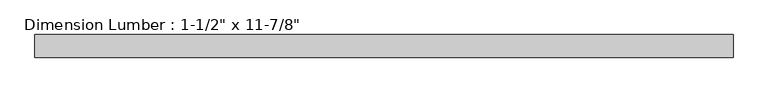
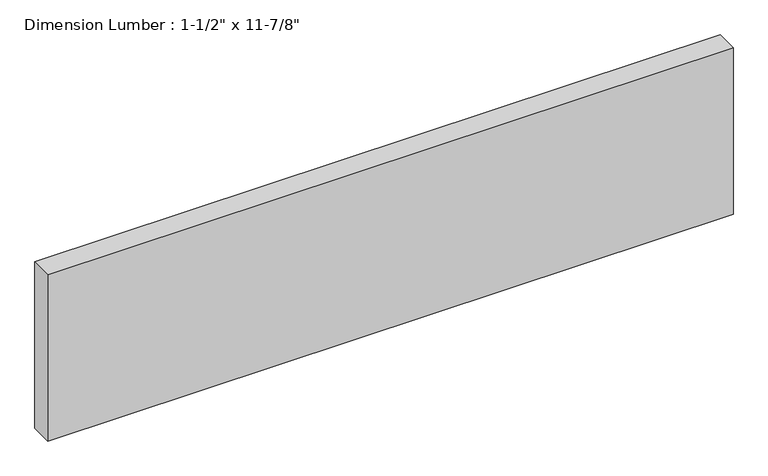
"""IFC4 building model written with IfcOpenShell, lengths in millimetres: beam geometry."""

import ifcopenshell
import ifcopenshell.guid

model = None  # the IFC model being written
_history = None  # IfcOwnerHistory: only IFC2X3 demands one
_inside = {}  # id of a spatial element -> (the spatial element, [elements in it])
_under = {}  # id of a project, library or spatial element -> (it, [spatial elements below it])
_declared = {}  # id of a project -> (the project, [libraries it declares])
_typed = {}  # id of a type object -> (the type object, [elements of that type])
_made_of = {}  # id of a material, layer set ... -> (it, [elements and type objects made of it])


def new_model(schema):
    """Start an empty IFC model of exactly this schema.

    Asked for "IFC4X3", IfcOpenShell would pick the latest addendum, in which some entities
    have other attributes; the version numbers below select the first issue.
    IFC2X3 requires an IfcOwnerHistory on every rooted entity: one is made here for all.
    """
    global model, _history
    if schema == "IFC4X3":
        model = ifcopenshell.file(schema_version=(4, 3, 0, 0))
    else:
        model = ifcopenshell.file(schema=schema)
    _inside.clear()
    _under.clear()
    _declared.clear()
    _typed.clear()
    _made_of.clear()
    _history = None
    if model.schema == "IFC2X3":
        org = make("IfcOrganization", Name="unknown")
        user = make(
            "IfcPersonAndOrganization",
            ThePerson=make("IfcPerson", FamilyName="unknown"),
            TheOrganization=org,
        )
        app = make(
            "IfcApplication",
            ApplicationDeveloper=org,
            Version="unknown",
            ApplicationFullName="unknown",
            ApplicationIdentifier="unknown",
        )
        _history = make(
            "IfcOwnerHistory",
            OwningUser=user,
            OwningApplication=app,
            ChangeAction="ADDED",
            CreationDate=0,
        )
    return model


def make(cls, **values):
    """One entity of the class cls with the attributes given. An attribute that is None is left unset."""
    return model.create_entity(
        cls, **{name: value for name, value in values.items() if value is not None}
    )


def rooted(cls, **values):
    """An entity with a GlobalId (a new one), such as an element, a storey or a relation."""
    return make(cls, GlobalId=ifcopenshell.guid.new(), OwnerHistory=_history, **values)


def si_unit(unit_type, name, prefix=None):
    """IfcSIUnit, for example si_unit("LENGTHUNIT", "METRE", prefix="MILLI")."""
    return make("IfcSIUnit", UnitType=unit_type, Prefix=prefix, Name=name)


def assignment(units):
    """IfcUnitAssignment: the units of a project."""
    return None if units is None else make("IfcUnitAssignment", Units=units)


def point(xyz):
    """IfcCartesianPoint."""
    return None if xyz is None else make("IfcCartesianPoint", Coordinates=xyz)


def direction(xyz):
    """IfcDirection."""
    return None if xyz is None else make("IfcDirection", DirectionRatios=xyz)


def frame(location, z_axis=None, x_axis=None):
    """IfcAxis2Placement3D, a coordinate frame: its origin and axes. An axis left out is left unset."""
    return make(
        "IfcAxis2Placement3D",
        Location=point(location),
        Axis=direction(z_axis),
        RefDirection=direction(x_axis),
    )


def origin():
    """The frame at (0, 0, 0) with its axes left unset."""
    return frame((0.0, 0.0, 0.0))


def place(relative_to, where):
    """IfcLocalPlacement: puts the frame where relative to a parent placement (None: the world)."""
    return make(
        "IfcLocalPlacement", PlacementRelTo=relative_to, RelativePlacement=where
    )


def context(
    kind, dimensions, precision=None, world=None, true_north=None, identifier=None
):
    """IfcGeometricRepresentationContext, for example the 3D "Model" context."""
    return make(
        "IfcGeometricRepresentationContext",
        ContextIdentifier=identifier,
        ContextType=kind,
        CoordinateSpaceDimension=dimensions,
        Precision=precision,
        WorldCoordinateSystem=world,
        TrueNorth=true_north,
    )


def project(units=None, contexts=None):
    """IfcProject with its units and contexts."""
    return rooted(
        "IfcProject",
        Name="project",
        RepresentationContexts=contexts,
        UnitsInContext=assignment(units),
    )


def spatial(cls, under=None, at=None, **own):
    """A site, building, storey or space (cls), placed at a placement, below another one or the project."""
    s = rooted(cls, ObjectPlacement=at, **own)
    if under is not None:
        _under.setdefault(under.id(), (under, []))[1].append(s)
    return s


def polyline(points):
    """IfcPolyline through the points."""
    return make("IfcPolyline", Points=[point(p) for p in points])


def outline(outer, holes=None, kind="AREA"):
    """IfcArbitraryClosedProfileDef: a profile drawn as a closed curve; with holes, ...WithVoids."""
    if holes is None:
        return make("IfcArbitraryClosedProfileDef", ProfileType=kind, OuterCurve=outer)
    return make(
        "IfcArbitraryProfileDefWithVoids",
        ProfileType=kind,
        OuterCurve=outer,
        InnerCurves=holes,
    )


def extrude(swept, where, along, depth):
    """IfcExtrudedAreaSolid: the profile swept, set in the frame where, extruded along a direction by depth."""
    return make(
        "IfcExtrudedAreaSolid",
        SweptArea=swept,
        Position=where,
        ExtrudedDirection=direction(along),
        Depth=depth,
    )


def shape(context_of_items, identifier, shape_type, items):
    """IfcShapeRepresentation: the items that make up one representation, for example the "Body"."""
    return make(
        "IfcShapeRepresentation",
        ContextOfItems=context_of_items,
        RepresentationIdentifier=identifier,
        RepresentationType=shape_type,
        Items=items,
    )


def source(mapping_origin, context_of_items, identifier, shape_type, items):
    """IfcRepresentationMap: a shape defined once, which mapped items show again and again."""
    return make(
        "IfcRepresentationMap",
        MappingOrigin=mapping_origin,
        MappedRepresentation=shape(context_of_items, identifier, shape_type, items),
    )


def transform(
    local_origin,
    x_axis=None,
    y_axis=None,
    z_axis=None,
    scale=None,
    scale2=None,
    scale3=None,
    uniform=True,
):
    """IfcCartesianTransformationOperator3D, or its non-uniform kind. x_axis, y_axis, z_axis: its Axis1, 2, 3."""
    if uniform:
        return make(
            "IfcCartesianTransformationOperator3D",
            Axis1=direction(x_axis),
            Axis2=direction(y_axis),
            LocalOrigin=point(local_origin),
            Scale=scale,
            Axis3=direction(z_axis),
        )
    return make(
        "IfcCartesianTransformationOperator3DnonUniform",
        Axis1=direction(x_axis),
        Axis2=direction(y_axis),
        LocalOrigin=point(local_origin),
        Scale=scale,
        Axis3=direction(z_axis),
        Scale2=scale2,
        Scale3=scale3,
    )


def mapped(mapping_source, mapping_target):
    """IfcMappedItem: shows the shape of a source again, moved by a transform."""
    return make(
        "IfcMappedItem", MappingSource=mapping_source, MappingTarget=mapping_target
    )


def made_of(thing, what):
    """Note that an element or type object is made of a material, layer set ...; save() writes the relation."""
    if what is not None:
        _made_of.setdefault(what.id(), (what, []))[1].append(thing)
    return thing


def element(
    cls,
    number,
    at=None,
    inside=None,
    cuts=None,
    type_object=None,
    material=None,
    context=None,
    identifier="Body",
    shape_type=None,
    held_by="IfcProductDefinitionShape",
    body=None,
    shapes=None,
    **own,
):
    """One element of the class cls, such as IfcWall. Its Tag is "e" and its number.

    at: its placement. inside: the storey or other place that contains it. cuts: it is an
    opening in that element (IfcRelVoidsElement). A single representation is given by context,
    identifier, shape_type and body (its items); several are given by shapes. held_by: the class
    of the entity that holds the representations. save() writes the other relations.
    """
    e = rooted(cls, Tag="e%d" % number, ObjectPlacement=at, **own)
    if body is not None:
        shapes = [shape(context, identifier, shape_type, body)]
    if shapes is not None:
        e.Representation = make(held_by, Representations=shapes)
    if inside is not None:
        _inside.setdefault(inside.id(), (inside, []))[1].append(e)
    if cuts is not None:
        rooted(
            "IfcRelVoidsElement", RelatingBuildingElement=cuts, RelatedOpeningElement=e
        )
    if type_object is not None:
        _typed.setdefault(type_object.id(), (type_object, []))[1].append(e)
    return made_of(e, material)


def aggregate(whole, parts):
    """IfcRelAggregates: a whole, such as a stair, and the parts it consists of."""
    return rooted("IfcRelAggregates", RelatingObject=whole, RelatedObjects=parts)


def save(model, path):
    """Write the relations noted so far, then the file.

    IfcRelAggregates (storeys below a building ...), IfcRelContainedInSpatialStructure (elements
    in a storey), IfcRelDefinesByType, IfcRelAssociatesMaterial and IfcRelDeclares: one each for
    every whole, place, type object, material and project.
    """
    for whole, parts in _under.values():
        aggregate(whole, parts)
    for where, things in _inside.values():
        rooted(
            "IfcRelContainedInSpatialStructure",
            RelatedElements=things,
            RelatingStructure=where,
        )
    for kind, things in _typed.values():
        rooted("IfcRelDefinesByType", RelatedObjects=things, RelatingType=kind)
    for what, things in _made_of.values():
        rooted("IfcRelAssociatesMaterial", RelatedObjects=things, RelatingMaterial=what)
    for by, libraries in _declared.values():
        rooted("IfcRelDeclares", RelatingContext=by, RelatedDefinitions=libraries)
    model.write(path)


def beam_a0f0ae58(model_context):
    return source(origin(), model_context, "Body", "SweptSolid", [
        extrude(outline(polyline([(555.625, 19.05), (555.625, -19.05), (-619.125, -19.05), (-619.125, 19.05), (555.625, 19.05)])), frame((0.0, 0.0, -150.8125), z_axis=(0.0, 0.0, 1.0), x_axis=(1.0, 0.0, 0.0)), (0.0, 0.0, 1.0), 301.625),
    ])


if __name__ == "__main__":
    model = new_model("IFC4")
    model_context = context("Model", 3, world=origin())
    ifc_project = project(units=[si_unit("LENGTHUNIT", "METRE", prefix="MILLI")], contexts=[model_context])
    site = spatial("IfcSite", under=ifc_project)
    building = spatial("IfcBuilding", under=site)
    placement = place(None, origin())
    beam_shape = beam_a0f0ae58(model_context)
    element("IfcBeam", 1, ObjectType="Dimension Lumber : 1-1/2\" x 11-7/8\"", at=placement, inside=building, context=model_context, shape_type="MappedRepresentation", body=[
        mapped(beam_shape, transform((0.0, 0.0, 0.0), x_axis=(1.0, 0.0, 0.0), y_axis=(0.0, 1.0, 0.0), z_axis=(0.0, 0.0, 1.0))),
    ])
    save(model, "model.ifc")
